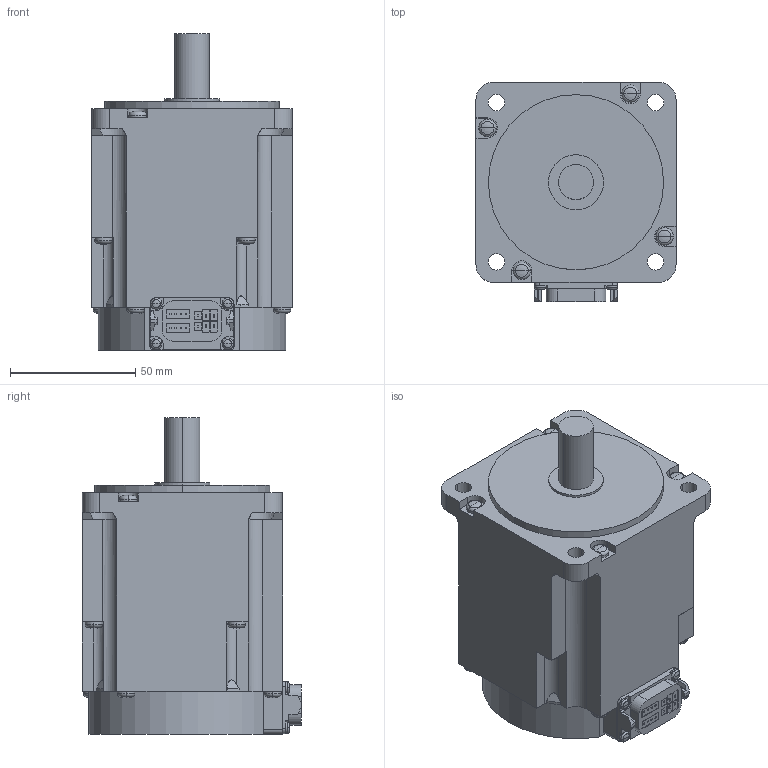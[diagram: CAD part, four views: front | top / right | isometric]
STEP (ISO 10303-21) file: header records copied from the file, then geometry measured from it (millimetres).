
FILE_DESCRIPTION((''),'2;1');
FILE_NAME('BC63828_-_HK-KT43UWB_-_ASM','2019-01-16T',('XE90682'),(''),'CREO PARAMETRIC BY PTC INC, 2016380','CREO PARAMETRIC BY PTC INC, 2016380','');
FILE_SCHEMA(('CONFIG_CONTROL_DESIGN'));
Length unit declared in the file: millimetre
Products named in the file (1): BC63828_-_HK-KT43UWB_-_ASM
Bounding box: 80 x 87.65 x 126.5 mm (x, y, z)
Volume: 544172.2 mm3; surface area: 45314.3 mm2
Topology: 1 solids, 1 shells, 401 faces, 1043 edges, 655 vertices
Faces by surface type: plane 220, cylinder 113, torus 32, sphere 32, cone 4
Entity records: 12241 total; most frequent: CARTESIAN_POINT 2270, DIRECTION 2124, ORIENTED_EDGE 2022, EDGE_CURVE 1011, AXIS2_PLACEMENT_3D 728, VECTOR 668, LINE 668, VERTEX_POINT 655
